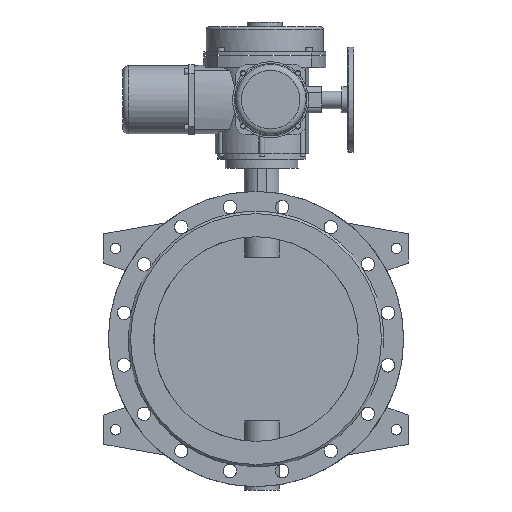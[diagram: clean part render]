
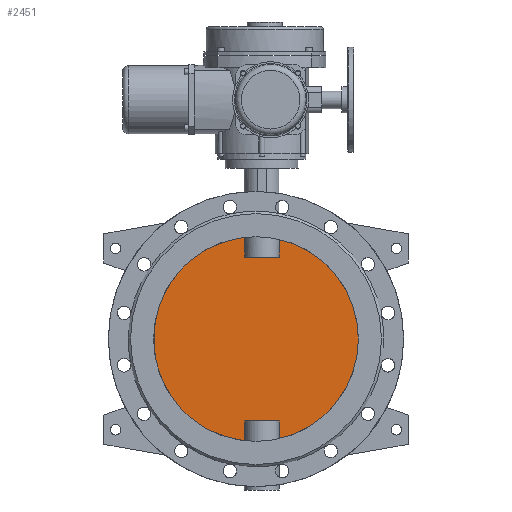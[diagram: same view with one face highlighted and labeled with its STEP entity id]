
A CAD part, front view. The second image highlights one B-rep face of the part: STEP entity #2451.
In plain terms, the highlighted planar face has unit normal (0, -1, 0).
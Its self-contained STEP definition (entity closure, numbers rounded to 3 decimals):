
#2451=ADVANCED_FACE('',(#6446),#6448,.F.);
#6446=FACE_BOUND('',#6447,.T.);
#6447=EDGE_LOOP('',(#8774,#8775,#8776,#8777,#8778,#8779,#8780,#8781));
#6448=PLANE('',#6449);
#6449=AXIS2_PLACEMENT_3D('',#6450,#6451,#6452);
#6450=CARTESIAN_POINT('',(0.,-5.,0.));
#6451=DIRECTION('',(0.,1.,0.));
#6452=DIRECTION('',(1.,0.,0.));
#8774=ORIENTED_EDGE('',*,*,#9963,.T.);
#8775=ORIENTED_EDGE('',*,*,#9983,.T.);
#8776=ORIENTED_EDGE('',*,*,#9984,.T.);
#8777=ORIENTED_EDGE('',*,*,#9985,.T.);
#8778=ORIENTED_EDGE('',*,*,#9965,.T.);
#8779=ORIENTED_EDGE('',*,*,#9986,.T.);
#8780=ORIENTED_EDGE('',*,*,#9987,.T.);
#8781=ORIENTED_EDGE('',*,*,#9988,.T.);
#9963=EDGE_CURVE('',#11368,#11369,#11370,.F.);
#9965=EDGE_CURVE('',#11373,#11371,#11374,.F.);
#9983=EDGE_CURVE('',#11369,#11404,#11405,.T.);
#9984=EDGE_CURVE('',#11404,#11406,#11407,.F.);
#9985=EDGE_CURVE('',#11406,#11373,#11408,.F.);
#9986=EDGE_CURVE('',#11371,#11409,#11410,.F.);
#9987=EDGE_CURVE('',#11409,#11411,#11412,.F.);
#9988=EDGE_CURVE('',#11411,#11368,#11413,.T.);
#11368=VERTEX_POINT('',#16705);
#11369=VERTEX_POINT('',#16706);
#11370=CIRCLE('',#16707,175.);
#11371=VERTEX_POINT('',#16711);
#11373=VERTEX_POINT('',#16814);
#11374=CIRCLE('',#16815,175.);
#11404=VERTEX_POINT('',#16998);
#11405=LINE('',#16999,#17000);
#11406=VERTEX_POINT('',#17002);
#11407=LINE('',#17003,#17004);
#11408=LINE('',#17006,#17007);
#11409=VERTEX_POINT('',#17009);
#11410=LINE('',#17010,#17011);
#11411=VERTEX_POINT('',#17013);
#11412=LINE('',#17014,#17015);
#11413=LINE('',#17017,#17018);
#16705=CARTESIAN_POINT('',(39.58,-5.,-170.465));
#16706=CARTESIAN_POINT('',(39.58,-5.,170.465));
#16707=AXIS2_PLACEMENT_3D('',#16708,#16709,#16710);
#16708=CARTESIAN_POINT('',(0.,-5.,0.));
#16709=DIRECTION('',(0.,1.,0.));
#16710=DIRECTION('',(0.226,0.,0.974));
#16711=CARTESIAN_POINT('',(-19.58,-5.,-173.901));
#16814=CARTESIAN_POINT('',(-19.58,-5.,173.901));
#16815=AXIS2_PLACEMENT_3D('',#16816,#16817,#16818);
#16816=CARTESIAN_POINT('',(0.,-5.,0.));
#16817=DIRECTION('',(0.,1.,0.));
#16818=DIRECTION('',(-0.112,0.,-0.994));
#16998=CARTESIAN_POINT('',(39.58,-5.,140.));
#16999=CARTESIAN_POINT('',(39.58,-5.,170.465));
#17000=VECTOR('',#17001,1.);
#17001=DIRECTION('',(0.,0.,-1.));
#17002=CARTESIAN_POINT('',(-19.58,-5.,140.));
#17003=CARTESIAN_POINT('',(-19.58,-5.,140.));
#17004=VECTOR('',#17005,1.);
#17005=DIRECTION('',(1.,0.,0.));
#17006=CARTESIAN_POINT('',(-19.58,-5.,173.901));
#17007=VECTOR('',#17008,1.);
#17008=DIRECTION('',(0.,0.,-1.));
#17009=CARTESIAN_POINT('',(-19.58,-5.,-140.));
#17010=CARTESIAN_POINT('',(-19.58,-5.,-140.));
#17011=VECTOR('',#17012,1.);
#17012=DIRECTION('',(0.,0.,-1.));
#17013=CARTESIAN_POINT('',(39.58,-5.,-140.));
#17014=CARTESIAN_POINT('',(39.58,-5.,-140.));
#17015=VECTOR('',#17016,1.);
#17016=DIRECTION('',(-1.,0.,0.));
#17017=CARTESIAN_POINT('',(39.58,-5.,-140.));
#17018=VECTOR('',#17019,1.);
#17019=DIRECTION('',(0.,0.,-1.));
